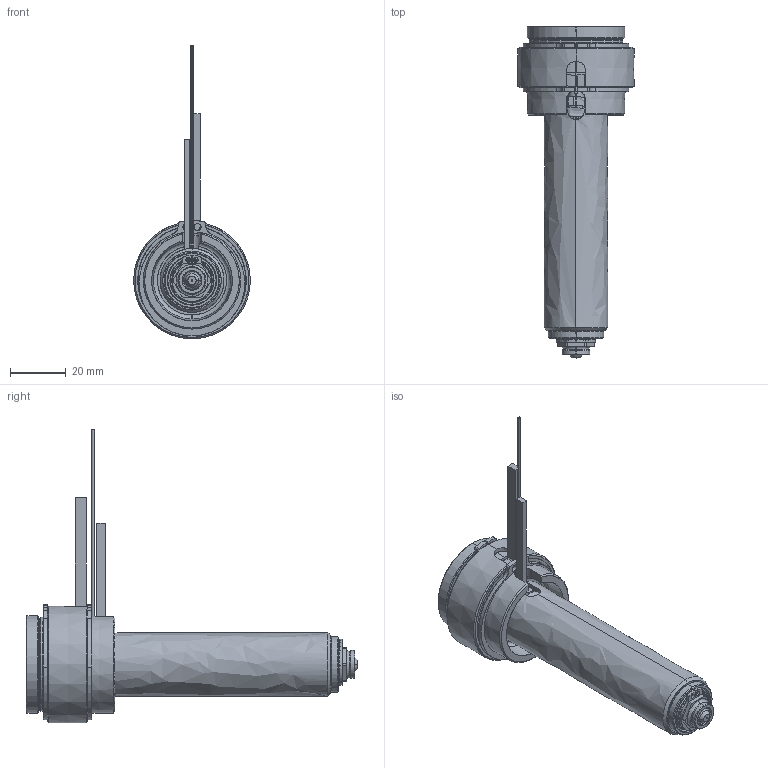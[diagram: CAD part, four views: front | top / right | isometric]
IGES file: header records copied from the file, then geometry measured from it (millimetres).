
Start section: SolidWorks IGES file using analytic representation for surfaces
Global section: file name: C:\Documents and Settings\ws-20\Desktop\TEM\UGER3552-S-A-0 [Øb-0.70  ØC-6.0].IGS; native system: SolidWorks 2012; preprocessor: SolidWorks 2012; author: ws-20; date: 120410.094529; units: millimetre
Bounding box: 42 x 119.4 x 105.6 mm (x, y, z)
Surface area: 32861.7 mm2 (no closed solid volume)
Topology: 0 solids, 0 shells, 207 faces, 3578 edges, 3578 vertices
Faces by surface type: revolution 132, bspline 75
